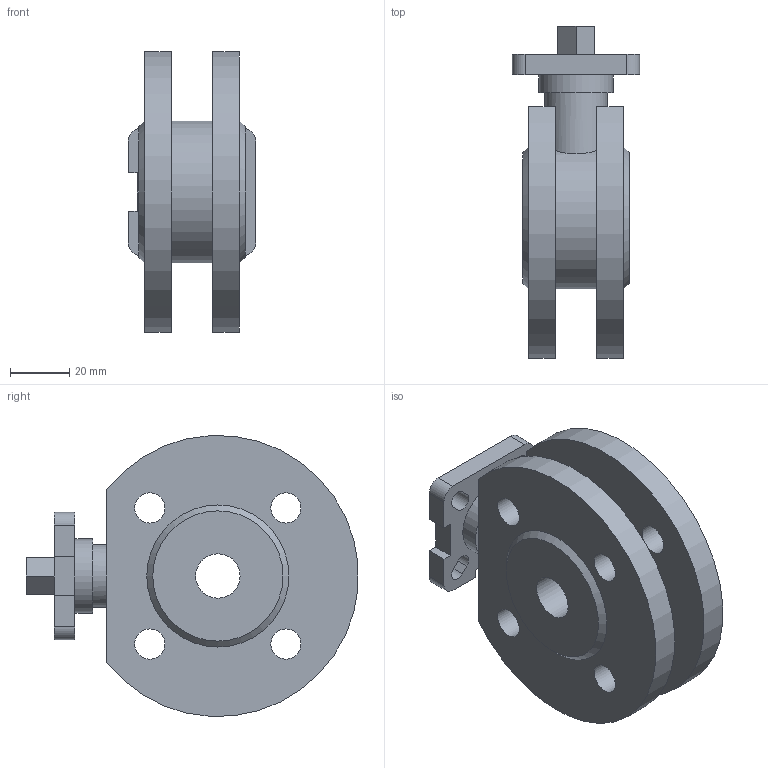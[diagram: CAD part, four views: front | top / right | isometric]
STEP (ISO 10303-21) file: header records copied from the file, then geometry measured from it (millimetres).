
FILE_DESCRIPTION (( 'STEP AP203' ), '1' );
FILE_NAME ('01.622I015016CP.STEP', '2018-10-23T08:50:05', ( 'dell2' ), ( 'Microsoft' ), 'SwSTEP 2.0', 'SolidWorks 2014', '' );
FILE_SCHEMA (( 'CONFIG_CONTROL_DESIGN' ));
Length unit declared in the file: millimetre
Products named in the file (1): 01.622I015016CP
Bounding box: 43 x 112.13 x 94.86 mm (x, y, z)
Volume: 160371.7 mm3; surface area: 38668.6 mm2
Topology: 1 solids, 1 shells, 64 faces, 178 edges, 121 vertices
Faces by surface type: plane 36, cylinder 26, cone 2
Full cylindrical faces by diameter (mm): 10.2 x8, 15 x1, 21 x1, 25 x1
Entity records: 2109 total; most frequent: CARTESIAN_POINT 381, DIRECTION 342, ORIENTED_EDGE 314, EDGE_CURVE 157, AXIS2_PLACEMENT_3D 122, VERTEX_POINT 113, EDGE_LOOP 108, VECTOR 98
